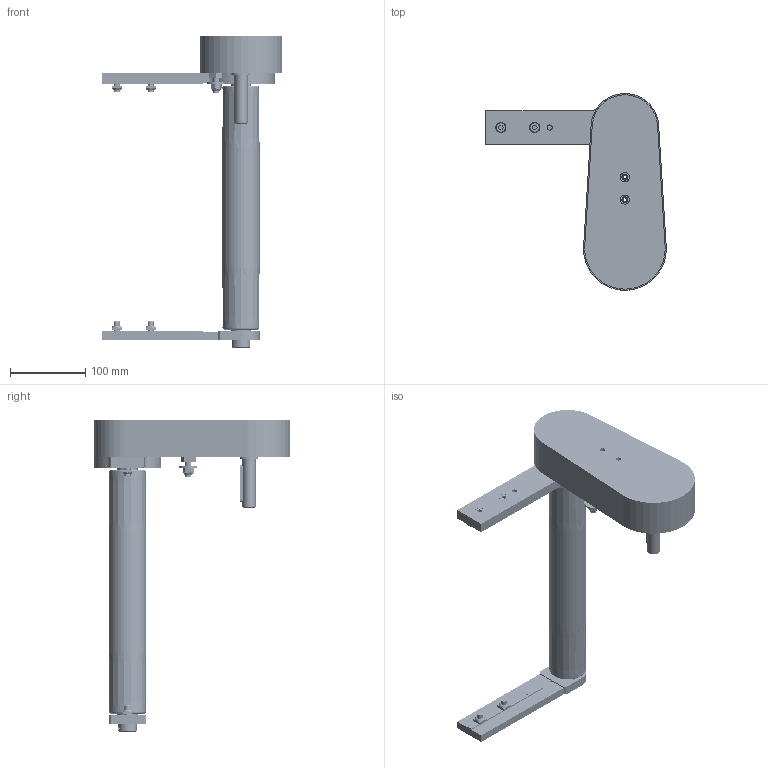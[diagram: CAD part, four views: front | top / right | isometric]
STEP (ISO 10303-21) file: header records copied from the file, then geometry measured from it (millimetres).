
FILE_DESCRIPTION (( 'STEP AP203' ), '1' );
FILE_NAME ('084.050.KTC.44.300.STEP', '2019-07-29T13:18:09', ( '' ), ( '' ), 'SwSTEP 2.0', 'SolidWorks 2018', '' );
FILE_SCHEMA (( 'CONFIG_CONTROL_DESIGN' ));
Length unit declared in the file: millimetre
Products named in the file (24): 084.813.001; 084.803.014; 084.810.005; Circlip DIN 471 - 8 x 0.8_Circlip DIN 471 - 8 x 0.8; 084.302.000 DADI ALUSIC 13x13_084.302.004; 084.813.004; 084.802.017_084.802.017; 084.810.004; 084.802.034_084.802.034; 084.807.002_084.807.002; 084.811.004; 084.810.001; 084.807.001_084.807.001; DADI ESAGONALI AUTOBLOCCANTI UNI 7473 INOX_M8 UNI 7473 INOX; 084.815.105_Default<A macchina>; 084.803.012; CUSCINETTI A SFERE_608-2RS; 084.809.001; 084.810.010; 084.301.000 VITI ALUSIC_084.301.003; CHIAVETTE_A 6x6x50 UNI 6604-69; 084.050.KTC.44.300; RONDELLE FASCIA LARGA UNI 6593_8.4x24 UNI 6593; 084.809.003
Assembly tree (32 placements, depth 3):
  084.050.KTC.44.300
    084.815.105_Default<A macchina>
    084.811.004
    084.813.001
    084.810.001  x2
    084.802.034_084.802.034
    084.802.017_084.802.017
    084.807.001_084.807.001
    084.807.002_084.807.002
    084.803.014  x2
    084.813.004
    084.803.012
    084.809.001
    084.809.003
    084.810.005
      084.810.010
      084.810.004
      CUSCINETTI A SFERE_608-2RS  x2
      Circlip DIN 471 - 8 x 0.8_Circlip DIN 471 - 8 x 0.8
      RONDELLE FASCIA LARGA UNI 6593_8.4x24 UNI 6593
      DADI ESAGONALI AUTOBLOCCANTI UNI 7473 INOX_M8 UNI 7473 INOX
    CHIAVETTE_A 6x6x50 UNI 6604-69
    084.301.000 VITI ALUSIC_084.301.003  x4
    084.302.000 DADI ALUSIC 13x13_084.302.004  x4
Bounding box: 240 x 261.5 x 416 mm (x, y, z)
Volume: 871792 mm3; surface area: 506730.6 mm2
Topology: 61 solids, 62 shells, 2851 faces, 6729 edges, 4301 vertices
Faces by surface type: cylinder 1397, plane 719, bspline 468, cone 172, torus 86, sphere 9
Entity records: 81213 total; most frequent: CARTESIAN_POINT 18476, DIRECTION 13639, ORIENTED_EDGE 11856, EDGE_CURVE 5928, AXIS2_PLACEMENT_3D 5757, VERTEX_POINT 3778, CIRCLE 3640, EDGE_LOOP 3100
